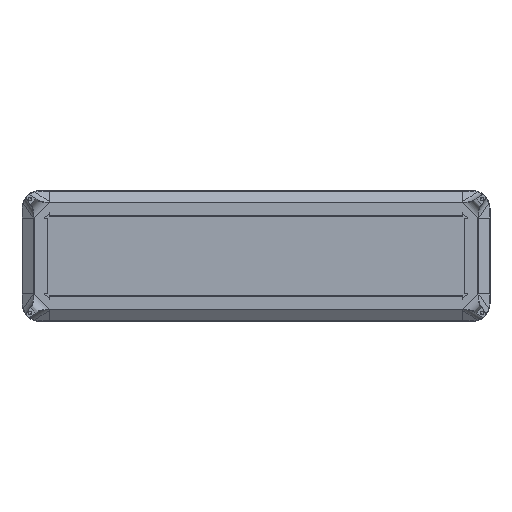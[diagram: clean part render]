
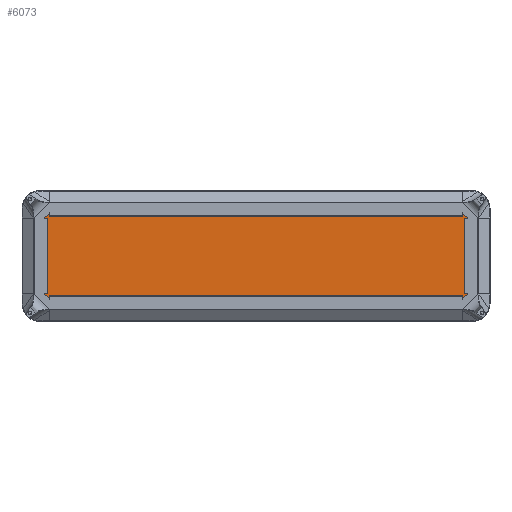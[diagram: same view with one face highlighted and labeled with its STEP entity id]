
A CAD part, front view. The second image highlights one B-rep face of the part: STEP entity #6073.
In plain terms, the highlighted planar face has unit normal (0, -1, 0).
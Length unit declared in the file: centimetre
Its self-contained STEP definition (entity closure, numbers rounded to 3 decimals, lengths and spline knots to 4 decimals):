
#597=LINE('',#12662,#1141);
#598=LINE('',#12666,#1142);
#599=LINE('',#12670,#1143);
#600=LINE('',#12674,#1144);
#1141=VECTOR('',#8204,147.6);
#1142=VECTOR('',#8207,32.6);
#1143=VECTOR('',#8210,147.6);
#1144=VECTOR('',#8213,32.6);
#1395=PLANE('',#6626);
#1702=FACE_OUTER_BOUND('',#2175,.T.);
#2175=EDGE_LOOP('',(#5421,#5422,#5423,#5424,#5425,#5426,#5427,#5428));
#2409=CIRCLE('',#6627,5.9);
#2410=CIRCLE('',#6628,5.9);
#2411=CIRCLE('',#6629,5.9);
#2412=CIRCLE('',#6630,5.9);
#2929=VERTEX_POINT('',#12660);
#2930=VERTEX_POINT('',#12661);
#2931=VERTEX_POINT('',#12663);
#2932=VERTEX_POINT('',#12665);
#2933=VERTEX_POINT('',#12667);
#2934=VERTEX_POINT('',#12669);
#2935=VERTEX_POINT('',#12671);
#2936=VERTEX_POINT('',#12673);
#3757=EDGE_CURVE('',#2929,#2930,#597,.T.);
#3758=EDGE_CURVE('',#2931,#2929,#2409,.T.);
#3759=EDGE_CURVE('',#2932,#2931,#598,.T.);
#3760=EDGE_CURVE('',#2933,#2932,#2410,.T.);
#3761=EDGE_CURVE('',#2934,#2933,#599,.T.);
#3762=EDGE_CURVE('',#2935,#2934,#2411,.T.);
#3763=EDGE_CURVE('',#2936,#2935,#600,.T.);
#3764=EDGE_CURVE('',#2930,#2936,#2412,.T.);
#5421=ORIENTED_EDGE('',*,*,#3757,.F.);
#5422=ORIENTED_EDGE('',*,*,#3758,.F.);
#5423=ORIENTED_EDGE('',*,*,#3759,.F.);
#5424=ORIENTED_EDGE('',*,*,#3760,.F.);
#5425=ORIENTED_EDGE('',*,*,#3761,.F.);
#5426=ORIENTED_EDGE('',*,*,#3762,.F.);
#5427=ORIENTED_EDGE('',*,*,#3763,.F.);
#5428=ORIENTED_EDGE('',*,*,#3764,.F.);
#6073=ADVANCED_FACE('',(#1702),#1395,.F.);
#6626=AXIS2_PLACEMENT_3D('',#12659,#8202,#8203);
#6627=AXIS2_PLACEMENT_3D('',#12664,#8205,#8206);
#6628=AXIS2_PLACEMENT_3D('',#12668,#8208,#8209);
#6629=AXIS2_PLACEMENT_3D('',#12672,#8211,#8212);
#6630=AXIS2_PLACEMENT_3D('',#12675,#8214,#8215);
#8202=DIRECTION('center_axis',(0.,1.,0.));
#8203=DIRECTION('ref_axis',(-1.,0.,0.));
#8204=DIRECTION('',(-1.,0.,0.));
#8205=DIRECTION('center_axis',(0.,1.,0.));
#8206=DIRECTION('ref_axis',(0.707,0.,-0.707));
#8207=DIRECTION('',(0.,0.,-1.));
#8208=DIRECTION('center_axis',(0.,1.,0.));
#8209=DIRECTION('ref_axis',(0.707,0.,0.707));
#8210=DIRECTION('',(1.,0.,0.));
#8211=DIRECTION('center_axis',(0.,1.,0.));
#8212=DIRECTION('ref_axis',(-0.707,0.,0.707));
#8213=DIRECTION('',(0.,0.,1.));
#8214=DIRECTION('center_axis',(0.,1.,0.));
#8215=DIRECTION('ref_axis',(-0.707,0.,-0.707));
#12659=CARTESIAN_POINT('Origin',(64.7963,1.7849,-35.5));
#12660=CARTESIAN_POINT('',(138.5963,1.7849,-57.7));
#12661=CARTESIAN_POINT('',(-9.0037,1.7849,-57.7));
#12662=CARTESIAN_POINT('',(24.8963,1.7849,-57.7));
#12663=CARTESIAN_POINT('',(144.4963,1.7849,-51.8));
#12664=CARTESIAN_POINT('Origin',(138.5963,1.7849,-51.8));
#12665=CARTESIAN_POINT('',(144.4963,1.7849,-19.2));
#12666=CARTESIAN_POINT('',(144.4963,1.7849,-46.65));
#12667=CARTESIAN_POINT('',(138.5963,1.7849,-13.3));
#12668=CARTESIAN_POINT('Origin',(138.5963,1.7849,-19.2));
#12669=CARTESIAN_POINT('',(-9.0037,1.7849,-13.3));
#12670=CARTESIAN_POINT('',(104.6963,1.7849,-13.3));
#12671=CARTESIAN_POINT('',(-14.9037,1.7849,-19.2));
#12672=CARTESIAN_POINT('Origin',(-9.0037,1.7849,-19.2));
#12673=CARTESIAN_POINT('',(-14.9037,1.7849,-51.8));
#12674=CARTESIAN_POINT('',(-14.9037,1.7849,-24.35));
#12675=CARTESIAN_POINT('Origin',(-9.0037,1.7849,-51.8));
